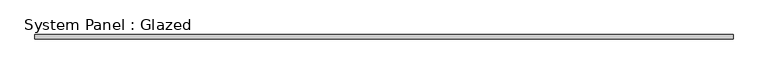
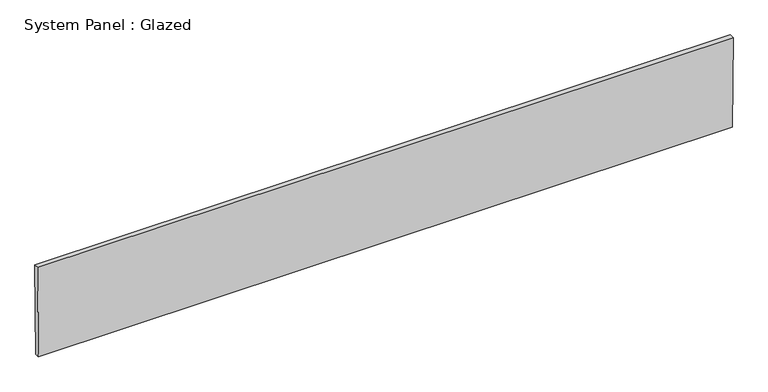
"""IFC4 building model written with IfcOpenShell, lengths in millimetres: plate geometry, System Panel : Glazed."""

from ifc_helpers import new_model, si_unit, frame, origin, place, context, project, spatial, polyline, outline, extrude, source, transform, mapped, element, save


def system_panel_glazed_75a13c62(model_context):
    return source(origin(), model_context, "Body", "SweptSolid", [
        extrude(outline(polyline([(0.0, -1943.3201376), (0.0, 1943.3201376), (530.6712495, 1947.2837723), (530.6712495, -1947.2837723), (0.0, -1943.3201376)])), frame((0.0, -44.45, 0.0), z_axis=(0.0, 1.0, 0.0), x_axis=(0.0, 0.0, 1.0)), (0.0, 0.0, 1.0), 25.4),
    ])


if __name__ == "__main__":
    model = new_model("IFC4")
    model_context = context("Model", 3, world=origin())
    ifc_project = project(units=[si_unit("LENGTHUNIT", "METRE", prefix="MILLI")], contexts=[model_context])
    site = spatial("IfcSite", under=ifc_project)
    building = spatial("IfcBuilding", under=site)
    placement = place(None, origin())
    system_panel_glazed_shape = system_panel_glazed_75a13c62(model_context)
    element("IfcPlate", 1, ObjectType="System Panel : Glazed", at=placement, inside=building, context=model_context, shape_type="MappedRepresentation", body=[
        mapped(system_panel_glazed_shape, transform((0.0, 0.0, 0.0), x_axis=(1.0, 0.0, 0.0), y_axis=(0.0, 1.0, 0.0), z_axis=(0.0, 0.0, 1.0))),
    ])
    save(model, "model.ifc")
